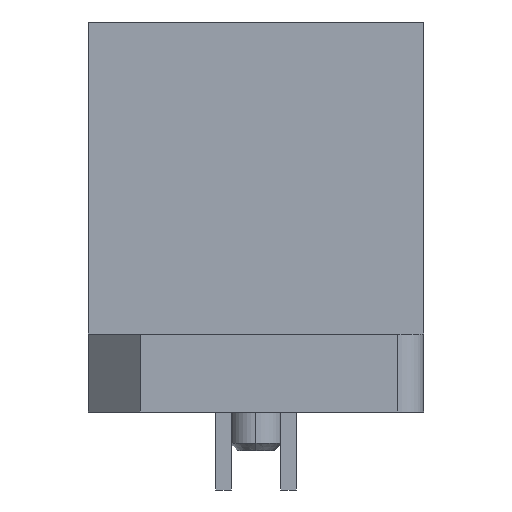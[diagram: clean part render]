
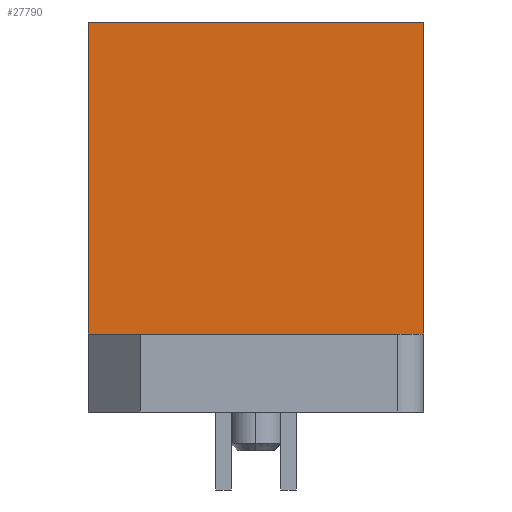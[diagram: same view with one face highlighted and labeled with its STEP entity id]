
A CAD part, left-side view. The second image highlights one B-rep face of the part: STEP entity #27790.
In plain terms, the highlighted planar face has unit normal (-1, 0, 0).
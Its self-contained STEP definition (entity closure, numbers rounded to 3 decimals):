
#8580=CARTESIAN_POINT('',(33.972,0.364,-5.5));
#8590=DIRECTION('',(0.,1.,0.));
#8600=VECTOR('',#8590,1.);
#8610=LINE('',#8580,#8600);
#8620=CARTESIAN_POINT('',(33.972,-7.636,-5.5));
#8630=VERTEX_POINT('',#8620);
#8640=CARTESIAN_POINT('',(33.972,5.264,-5.5));
#8650=VERTEX_POINT('',#8640);
#8660=EDGE_CURVE('',#8630,#8650,#8610,.T.);
#26470=CARTESIAN_POINT('',(33.972,-7.636,-17.5));
#26480=VERTEX_POINT('',#26470);
#26510=CARTESIAN_POINT('',(33.972,-7.636,
-13.));
#26520=DIRECTION('',(0.,0.,1.));
#26530=VECTOR('',#26520,1.);
#26540=LINE('',#26510,#26530);
#26550=EDGE_CURVE('',#26480,#8630,#26540,.T.);
#27350=CARTESIAN_POINT('',(33.972,5.264,-17.5));
#27360=VERTEX_POINT('',#27350);
#27390=CARTESIAN_POINT('',(33.972,0.364,-17.5));
#27400=DIRECTION('',(0.,1.,0.));
#27410=VECTOR('',#27400,1.);
#27420=LINE('',#27390,#27410);
#27430=EDGE_CURVE('',#26480,#27360,#27420,.T.);
#27630=CARTESIAN_POINT('',(33.972,6.554,-19.1));
#27640=DIRECTION('',(-1.,0.,0.));
#27650=DIRECTION('',(0.,0.,1.));
#27660=AXIS2_PLACEMENT_3D('',#27630,#27640,#27650);
#27670=PLANE('',#27660);
#27680=CARTESIAN_POINT('',(33.972,5.264,
-13.));
#27690=DIRECTION('',(0.,0.,-1.));
#27700=VECTOR('',#27690,1.);
#27710=LINE('',#27680,#27700);
#27720=EDGE_CURVE('',#8650,#27360,#27710,.T.);
#27730=ORIENTED_EDGE('',*,*,#27720,.T.);
#27740=ORIENTED_EDGE('',*,*,#8660,.T.);
#27750=ORIENTED_EDGE('',*,*,#26550,.T.);
#27760=ORIENTED_EDGE('',*,*,#27430,.F.);
#27770=EDGE_LOOP('',(#27760,#27750,#27740,#27730));
#27780=FACE_OUTER_BOUND('',#27770,.T.);
#27790=ADVANCED_FACE('',(#27780),#27670,.T.);
